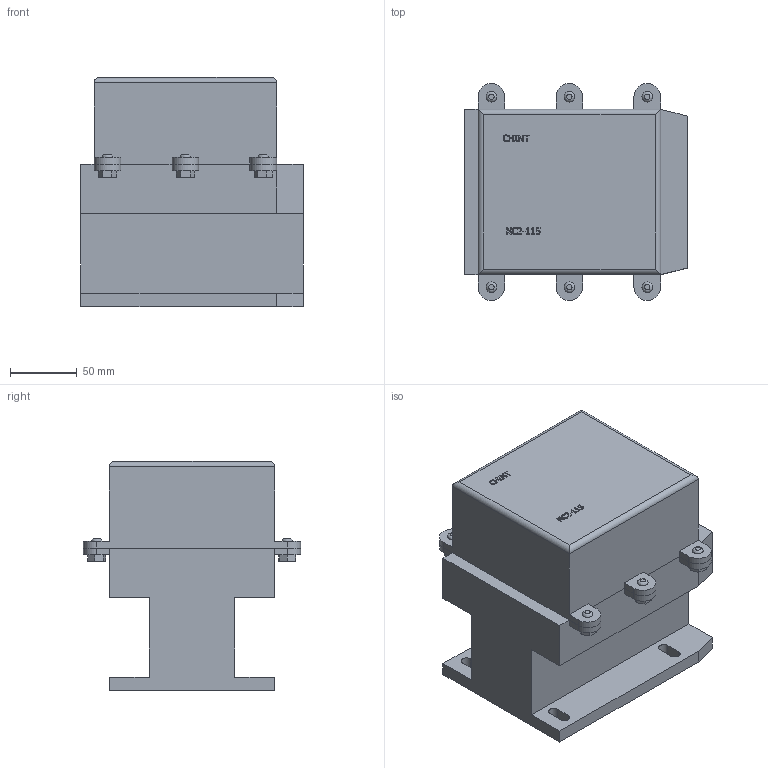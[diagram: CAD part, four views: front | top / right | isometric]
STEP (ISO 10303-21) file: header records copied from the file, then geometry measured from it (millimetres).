
FILE_DESCRIPTION(/* description */ (''),/* implementation_level */ '2;1');
FILE_NAME(/* name */ 'D:\CHINT2\NC2\NC2-115 230В 50Гц.stp',/* time_stamp */ '2017-11-12T20:44:47+03:00',/* author */ ('RSagdiev'),/* organization */ (''),/* preprocessor_version */ 'ST-DEVELOPER v16.5',/* originating_system */ 'Autodesk Inventor 2017',/* authorisation */ '');
FILE_SCHEMA (('AUTOMOTIVE_DESIGN { 1 0 10303 214 3 1 1 }'));
Length unit declared in the file: millimetre
Products named in the file (1): NC2-115 230В 50Гц
Bounding box: 167 x 163 x 172.1 mm (x, y, z)
Volume: 2731759.5 mm3; surface area: 197189.7 mm2
Topology: 14 solids, 14 shells, 321 faces, 849 edges, 568 vertices
Faces by surface type: plane 233, bspline 64, cylinder 24
Entity records: 10519 total; most frequent: CARTESIAN_POINT 2833, ORIENTED_EDGE 1698, DIRECTION 1311, EDGE_CURVE 849, LINE 659, VECTOR 659, VERTEX_POINT 568, EDGE_LOOP 341
